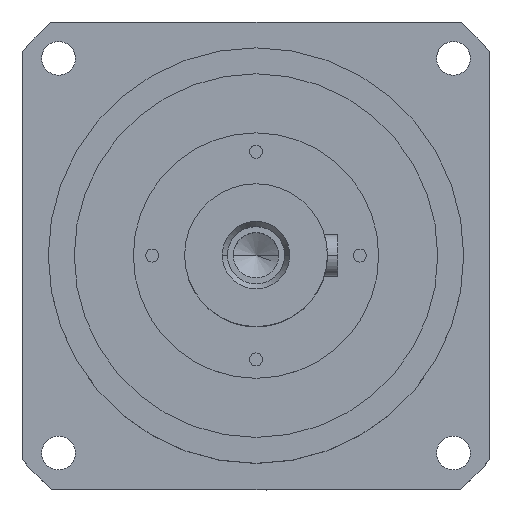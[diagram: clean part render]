
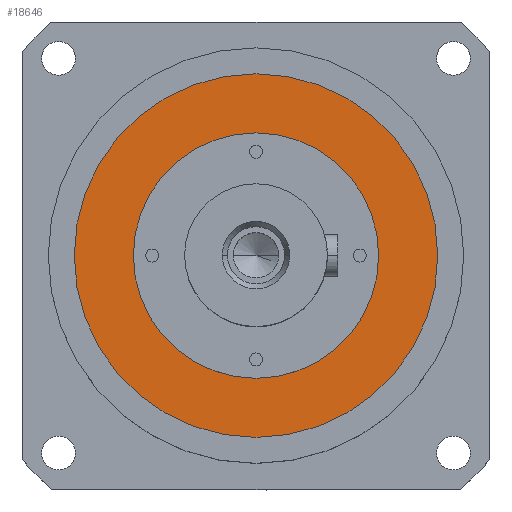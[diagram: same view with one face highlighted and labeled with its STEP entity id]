
A CAD part, top view. The second image highlights one B-rep face of the part: STEP entity #18646.
In plain terms, the highlighted planar face has unit normal (0, 0, 1).
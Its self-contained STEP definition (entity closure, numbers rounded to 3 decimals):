
#287 = EDGE_CURVE ( 'NONE', #6333, #6350, #12850, .T. ) ;
#2500 = VERTEX_POINT ( 'NONE', #4414 ) ;
#3807 = VERTEX_POINT ( 'NONE', #4895 ) ;
#4414 = CARTESIAN_POINT ( 'NONE',  ( 70., 0., 26.998 ) ) ;
#4895 = CARTESIAN_POINT ( 'NONE',  ( -70., 0., 26.998 ) ) ;
#5070 = EDGE_CURVE ( 'NONE', #3807, #2500, #5212, .T. ) ;
#5208 = DIRECTION ( 'NONE',  ( 1., 0., 0. ) ) ;
#5209 = DIRECTION ( 'NONE',  ( 0., 0., 1. ) ) ;
#5210 = CARTESIAN_POINT ( 'NONE',  ( 0., 0., 26.998 ) ) ;
#5211 = AXIS2_PLACEMENT_3D ( 'NONE', #5210, #5209, #5208 ) ;
#5212 = CIRCLE ( 'NONE', #5211, 70. ) ;
#5438 = CIRCLE ( 'NONE', #5499, 47.25 ) ;
#5450 = CARTESIAN_POINT ( 'NONE',  ( 0., 0., 26.998 ) ) ;
#5479 = CARTESIAN_POINT ( 'NONE',  ( 47.25, 0., 26.998 ) ) ;
#5497 = DIRECTION ( 'NONE',  ( 1., 0., 0. ) ) ;
#5498 = DIRECTION ( 'NONE',  ( 0., 0., 1. ) ) ;
#5499 = AXIS2_PLACEMENT_3D ( 'NONE', #5450, #5498, #5497 ) ;
#5500 = CARTESIAN_POINT ( 'NONE',  ( -47.25, 0., 26.998 ) ) ;
#6301 = EDGE_CURVE ( 'NONE', #6350, #6333, #5438, .T. ) ;
#6333 = VERTEX_POINT ( 'NONE', #5500 ) ;
#6350 = VERTEX_POINT ( 'NONE', #5479 ) ;
#8826 = AXIS2_PLACEMENT_3D ( 'NONE', #8830, #8887, #8886 ) ;
#8830 = CARTESIAN_POINT ( 'NONE',  ( 0., 0., 26.998 ) ) ;
#8832 = CIRCLE ( 'NONE', #8826, 70. ) ;
#8886 = DIRECTION ( 'NONE',  ( 1., 0., 0. ) ) ;
#8887 = DIRECTION ( 'NONE',  ( 0., 0., 1. ) ) ;
#10935 = AXIS2_PLACEMENT_3D ( 'NONE', #10983, #10982, #10981 ) ;
#10937 = FACE_OUTER_BOUND ( 'NONE', #18609, .T. ) ;
#10945 = FACE_BOUND ( 'NONE', #18503, .T. ) ;
#10981 = DIRECTION ( 'NONE',  ( 1., 0., 0. ) ) ;
#10982 = DIRECTION ( 'NONE',  ( 0., 0., 1. ) ) ;
#10983 = CARTESIAN_POINT ( 'NONE',  ( 0., 0., 26.998 ) ) ;
#10994 = PLANE ( 'NONE',  #10935 ) ;
#12830 = DIRECTION ( 'NONE',  ( 1., 0., 0. ) ) ;
#12831 = DIRECTION ( 'NONE',  ( 0., 0., 1. ) ) ;
#12832 = CARTESIAN_POINT ( 'NONE',  ( 0., 0., 26.998 ) ) ;
#12833 = AXIS2_PLACEMENT_3D ( 'NONE', #12832, #12831, #12830 ) ;
#12850 = CIRCLE ( 'NONE', #12833, 47.25 ) ;
#17559 = EDGE_CURVE ( 'NONE', #2500, #3807, #8832, .T. ) ;
#18503 = EDGE_LOOP ( 'NONE', ( #18612, #18615 ) ) ;
#18534 = ORIENTED_EDGE ( 'NONE', *, *, #5070, .T. ) ;
#18609 = EDGE_LOOP ( 'NONE', ( #18618, #18534 ) ) ;
#18612 = ORIENTED_EDGE ( 'NONE', *, *, #6301, .F. ) ;
#18615 = ORIENTED_EDGE ( 'NONE', *, *, #287, .F. ) ;
#18618 = ORIENTED_EDGE ( 'NONE', *, *, #17559, .T. ) ;
#18646 = ADVANCED_FACE ( 'NONE', ( #10945, #10937 ), #10994, .T. ) ;
